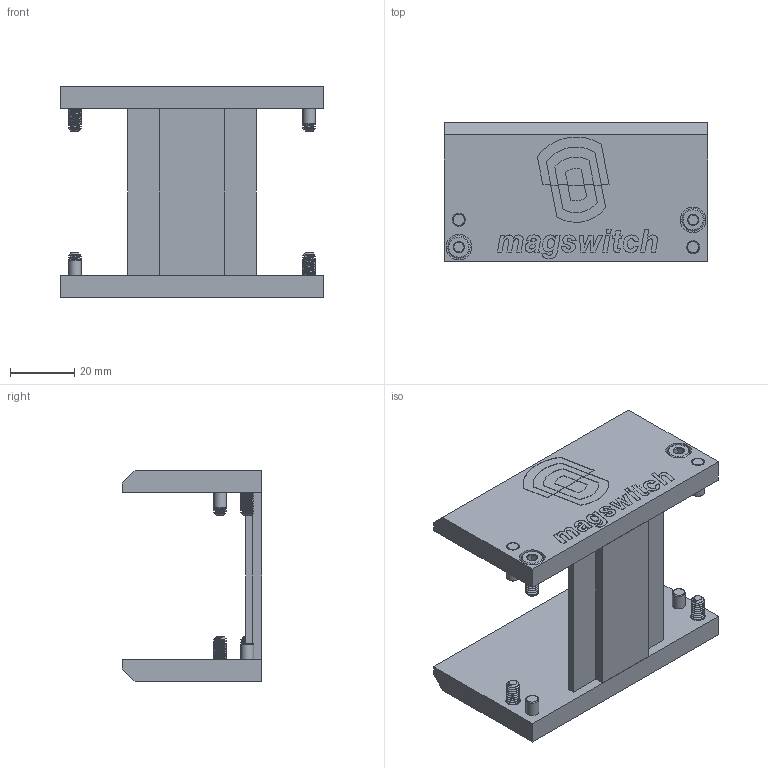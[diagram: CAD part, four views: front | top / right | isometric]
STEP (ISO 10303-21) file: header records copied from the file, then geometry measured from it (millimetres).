
FILE_DESCRIPTION (( 'STEP AP214' ), '1' );
FILE_NAME ('88001419_p.STEP', '2022-08-01T18:54:15', ( '' ), ( '' ), 'SwSTEP 2.0', 'SolidWorks 2018', '' );
FILE_SCHEMA (( 'AUTOMOTIVE_DESIGN' ));
Length unit declared in the file: millimetre
Products named in the file (2): 88001419_p
Bounding box: 82 x 43.5 x 66 mm (x, y, z)
Surface area: 24702.3 mm2 (no closed solid volume)
Topology: 0 solids, 15 shells, 536 faces, 1596 edges, 1064 vertices
Faces by surface type: plane 260, bspline 194, cylinder 42, cone 36, torus 4
Full cylindrical faces by diameter (mm): 4 x8, 4.5 x4, 7 x4, 8 x4
Entity records: 30276 total; most frequent: CARTESIAN_POINT 12052, ORIENTED_EDGE 2784, DIRECTION 1800, EDGE_CURVE 1548, VERTEX_POINT 1052, LINE 872, VECTOR 872, EDGE_LOOP 616
